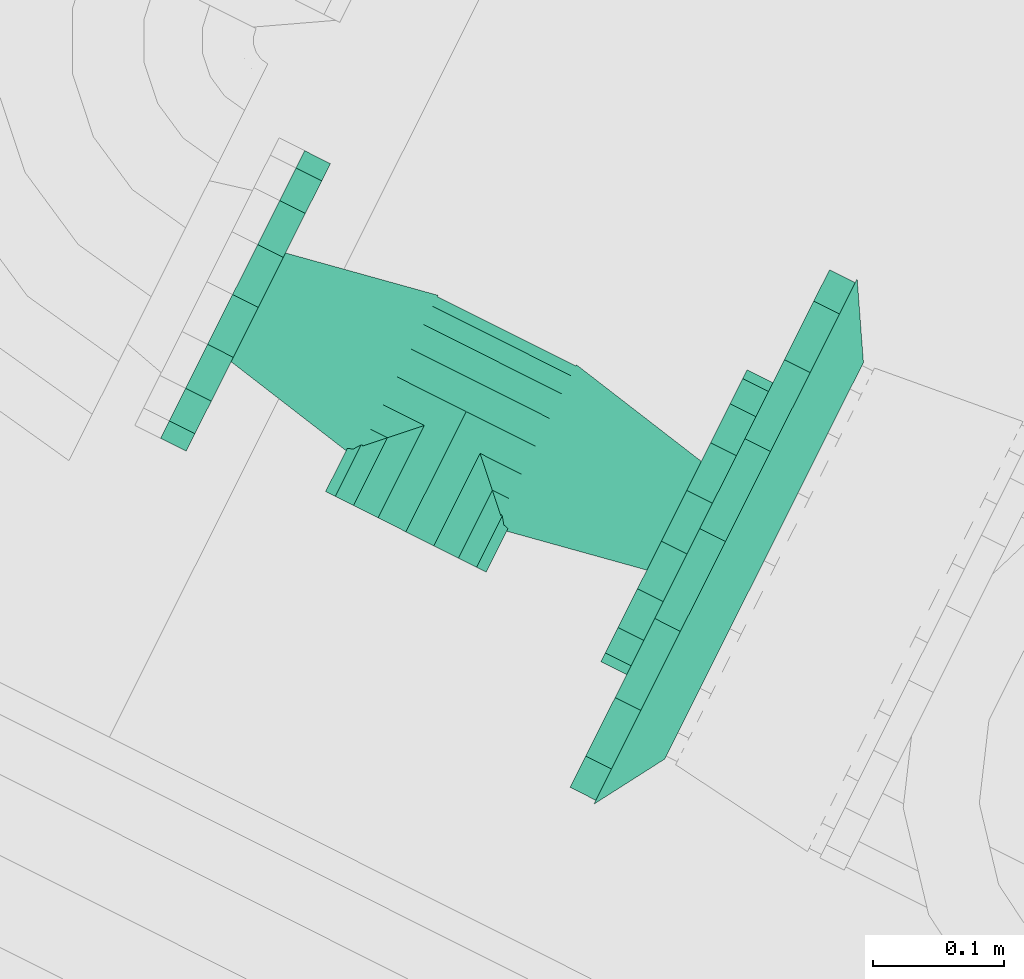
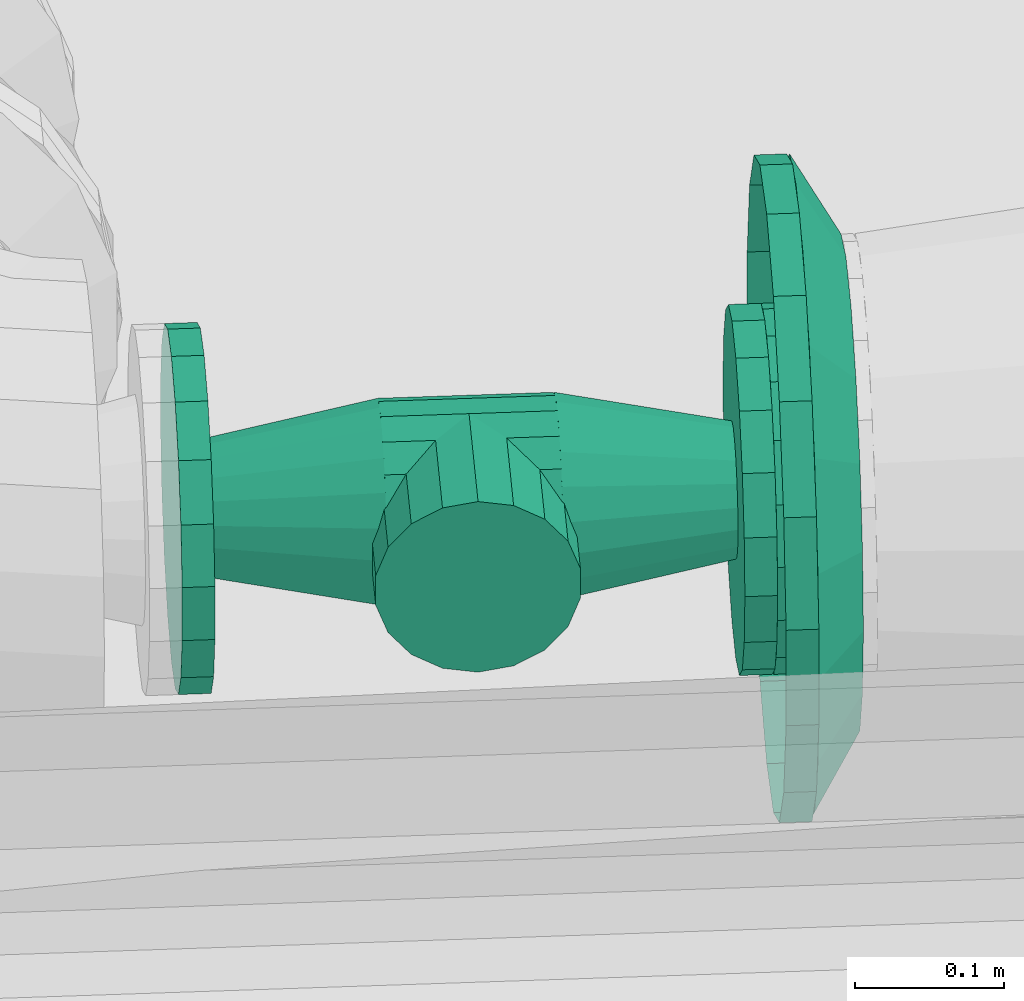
# One storey, part 48 of 206: 1 flow controller, 1 flow fitting.
"""IFC2X3 building model written with IfcOpenShell, lengths in metres."""

import ifcopenshell
import ifcopenshell.guid

model = None  # the IFC model being written
_history = None  # IfcOwnerHistory: only IFC2X3 demands one
_inside = {}  # id of a spatial element -> (the spatial element, [elements in it])
_under = {}  # id of a project, library or spatial element -> (it, [spatial elements below it])
_declared = {}  # id of a project -> (the project, [libraries it declares])
_typed = {}  # id of a type object -> (the type object, [elements of that type])
_made_of = {}  # id of a material, layer set ... -> (it, [elements and type objects made of it])


def new_model(schema):
    """Start an empty IFC model of exactly this schema.

    Asked for "IFC4X3", IfcOpenShell would pick the latest addendum, in which some entities
    have other attributes; the version numbers below select the first issue.
    IFC2X3 requires an IfcOwnerHistory on every rooted entity: one is made here for all.
    """
    global model, _history
    if schema == "IFC4X3":
        model = ifcopenshell.file(schema_version=(4, 3, 0, 0))
    else:
        model = ifcopenshell.file(schema=schema)
    _inside.clear()
    _under.clear()
    _declared.clear()
    _typed.clear()
    _made_of.clear()
    _history = None
    if model.schema == "IFC2X3":
        org = make("IfcOrganization", Name="unknown")
        user = make(
            "IfcPersonAndOrganization",
            ThePerson=make("IfcPerson", FamilyName="unknown"),
            TheOrganization=org,
        )
        app = make(
            "IfcApplication",
            ApplicationDeveloper=org,
            Version="unknown",
            ApplicationFullName="unknown",
            ApplicationIdentifier="unknown",
        )
        _history = make(
            "IfcOwnerHistory",
            OwningUser=user,
            OwningApplication=app,
            ChangeAction="ADDED",
            CreationDate=0,
        )
    return model


def make(cls, **values):
    """One entity of the class cls with the attributes given. An attribute that is None is left unset."""
    return model.create_entity(
        cls, **{name: value for name, value in values.items() if value is not None}
    )


def rooted(cls, **values):
    """An entity with a GlobalId (a new one), such as an element, a storey or a relation."""
    return make(cls, GlobalId=ifcopenshell.guid.new(), OwnerHistory=_history, **values)


def si_unit(unit_type, name, prefix=None):
    """IfcSIUnit, for example si_unit("LENGTHUNIT", "METRE", prefix="MILLI")."""
    return make("IfcSIUnit", UnitType=unit_type, Prefix=prefix, Name=name)


def derived_unit(unit_type, elements):
    """IfcDerivedUnit: a product of units, each with its exponent."""
    return make(
        "IfcDerivedUnit",
        Elements=[
            make("IfcDerivedUnitElement", Unit=unit, Exponent=power)
            for unit, power in elements
        ],
        UnitType=unit_type,
    )


def assignment(units):
    """IfcUnitAssignment: the units of a project."""
    return None if units is None else make("IfcUnitAssignment", Units=units)


def point(xyz):
    """IfcCartesianPoint."""
    return None if xyz is None else make("IfcCartesianPoint", Coordinates=xyz)


def direction(xyz):
    """IfcDirection."""
    return None if xyz is None else make("IfcDirection", DirectionRatios=xyz)


def frame(location, z_axis=None, x_axis=None):
    """IfcAxis2Placement3D, a coordinate frame: its origin and axes. An axis left out is left unset."""
    return make(
        "IfcAxis2Placement3D",
        Location=point(location),
        Axis=direction(z_axis),
        RefDirection=direction(x_axis),
    )


def origin():
    """The frame at (0, 0, 0) with its axes left unset."""
    return frame((0.0, 0.0, 0.0))


def place(relative_to, where):
    """IfcLocalPlacement: puts the frame where relative to a parent placement (None: the world)."""
    return make(
        "IfcLocalPlacement", PlacementRelTo=relative_to, RelativePlacement=where
    )


def context(
    kind, dimensions, precision=None, world=None, true_north=None, identifier=None
):
    """IfcGeometricRepresentationContext, for example the 3D "Model" context."""
    return make(
        "IfcGeometricRepresentationContext",
        ContextIdentifier=identifier,
        ContextType=kind,
        CoordinateSpaceDimension=dimensions,
        Precision=precision,
        WorldCoordinateSystem=world,
        TrueNorth=true_north,
    )


def subcontext(parent, identifier, kind, view, scale=None):
    """IfcGeometricRepresentationSubContext, for example "Body" below "Model"."""
    return make(
        "IfcGeometricRepresentationSubContext",
        ContextIdentifier=identifier,
        ContextType=kind,
        ParentContext=parent,
        TargetScale=scale,
        TargetView=view,
    )


def project(units=None, contexts=None):
    """IfcProject with its units and contexts."""
    return rooted(
        "IfcProject",
        Name="project",
        RepresentationContexts=contexts,
        UnitsInContext=assignment(units),
    )


def spatial(cls, under=None, at=None, **own):
    """A site, building, storey or space (cls), placed at a placement, below another one or the project."""
    s = rooted(cls, ObjectPlacement=at, **own)
    if under is not None:
        _under.setdefault(under.id(), (under, []))[1].append(s)
    return s


def faces_of(points, faces, orient=None, outer=None):
    """IfcFace entities. A face is a list of loops; a loop is a list of indices into points, from 0.

    orient and outer hold one flag for each loop. By default every Orientation is true, the
    first loop of a face is its IfcFaceOuterBound and the others are IfcFaceBound.
    """
    made = []
    for i, loops in enumerate(faces):
        bounds = []
        for j, loop in enumerate(loops):
            is_outer = j == 0 if outer is None else outer[i][j]
            bounds.append(
                make(
                    "IfcFaceOuterBound" if is_outer else "IfcFaceBound",
                    Bound=make("IfcPolyLoop", Polygon=[points[k] for k in loop]),
                    Orientation=True if orient is None else orient[i][j],
                )
            )
        made.append(make("IfcFace", Bounds=bounds))
    return made


def face_set(faces, orient=None, outer=None):
    """The faces of one IfcConnectedFaceSet. surface_model builds it on its shared points."""
    return ("IfcConnectedFaceSet", faces, orient, outer)


def surface_model(cls, points, shells):
    """IfcFaceBasedSurfaceModel or IfcShellBasedSurfaceModel (cls): surfaces that need not close."""
    shared = [point(p) for p in points]
    made = [make(c, CfsFaces=faces_of(shared, fs, o, b)) for c, fs, o, b in shells]
    if cls == "IfcFaceBasedSurfaceModel":
        return make(cls, FbsmFaces=made)
    return make(cls, SbsmBoundary=made)


def shape(context_of_items, identifier, shape_type, items):
    """IfcShapeRepresentation: the items that make up one representation, for example the "Body"."""
    return make(
        "IfcShapeRepresentation",
        ContextOfItems=context_of_items,
        RepresentationIdentifier=identifier,
        RepresentationType=shape_type,
        Items=items,
    )


def source(mapping_origin, context_of_items, identifier, shape_type, items):
    """IfcRepresentationMap: a shape defined once, which mapped items show again and again."""
    return make(
        "IfcRepresentationMap",
        MappingOrigin=mapping_origin,
        MappedRepresentation=shape(context_of_items, identifier, shape_type, items),
    )


def transform(
    local_origin,
    x_axis=None,
    y_axis=None,
    z_axis=None,
    scale=None,
    scale2=None,
    scale3=None,
    uniform=True,
):
    """IfcCartesianTransformationOperator3D, or its non-uniform kind. x_axis, y_axis, z_axis: its Axis1, 2, 3."""
    if uniform:
        return make(
            "IfcCartesianTransformationOperator3D",
            Axis1=direction(x_axis),
            Axis2=direction(y_axis),
            LocalOrigin=point(local_origin),
            Scale=scale,
            Axis3=direction(z_axis),
        )
    return make(
        "IfcCartesianTransformationOperator3DnonUniform",
        Axis1=direction(x_axis),
        Axis2=direction(y_axis),
        LocalOrigin=point(local_origin),
        Scale=scale,
        Axis3=direction(z_axis),
        Scale2=scale2,
        Scale3=scale3,
    )


def mapped(mapping_source, mapping_target):
    """IfcMappedItem: shows the shape of a source again, moved by a transform."""
    return make(
        "IfcMappedItem", MappingSource=mapping_source, MappingTarget=mapping_target
    )


def material(Name=None, Category=None):
    """IfcMaterial."""
    return make("IfcMaterial", Name=Name, Category=Category)


def made_of(thing, what):
    """Note that an element or type object is made of a material, layer set ...; save() writes the relation."""
    if what is not None:
        _made_of.setdefault(what.id(), (what, []))[1].append(thing)
    return thing


def type_object(cls, material=None, **own):
    """A type object (cls), such as IfcWallType, which elements share."""
    return made_of(rooted(cls, **own), material)


def type_shapes(of_type, sources):
    """Give a type object the sources (RepresentationMaps) that its elements show as mapped items."""
    of_type.RepresentationMaps = sources


def element(
    cls,
    number,
    at=None,
    inside=None,
    cuts=None,
    type_object=None,
    material=None,
    context=None,
    identifier="Body",
    shape_type=None,
    held_by="IfcProductDefinitionShape",
    body=None,
    shapes=None,
    **own,
):
    """One element of the class cls, such as IfcWall. Its Tag is "e" and its number.

    at: its placement. inside: the storey or other place that contains it. cuts: it is an
    opening in that element (IfcRelVoidsElement). A single representation is given by context,
    identifier, shape_type and body (its items); several are given by shapes. held_by: the class
    of the entity that holds the representations. save() writes the other relations.
    """
    e = rooted(cls, Tag="e%d" % number, ObjectPlacement=at, **own)
    if body is not None:
        shapes = [shape(context, identifier, shape_type, body)]
    if shapes is not None:
        e.Representation = make(held_by, Representations=shapes)
    if inside is not None:
        _inside.setdefault(inside.id(), (inside, []))[1].append(e)
    if cuts is not None:
        rooted(
            "IfcRelVoidsElement", RelatingBuildingElement=cuts, RelatedOpeningElement=e
        )
    if type_object is not None:
        _typed.setdefault(type_object.id(), (type_object, []))[1].append(e)
    return made_of(e, material)


def aggregate(whole, parts):
    """IfcRelAggregates: a whole, such as a stair, and the parts it consists of."""
    return rooted("IfcRelAggregates", RelatingObject=whole, RelatedObjects=parts)


def save(model, path):
    """Write the relations noted so far, then the file.

    IfcRelAggregates (storeys below a building ...), IfcRelContainedInSpatialStructure (elements
    in a storey), IfcRelDefinesByType, IfcRelAssociatesMaterial and IfcRelDeclares: one each for
    every whole, place, type object, material and project.
    """
    for whole, parts in _under.values():
        aggregate(whole, parts)
    for where, things in _inside.values():
        rooted(
            "IfcRelContainedInSpatialStructure",
            RelatedElements=things,
            RelatingStructure=where,
        )
    for kind, things in _typed.values():
        rooted("IfcRelDefinesByType", RelatedObjects=things, RelatingType=kind)
    for what, things in _made_of.values():
        rooted("IfcRelAssociatesMaterial", RelatedObjects=things, RelatingMaterial=what)
    for by, libraries in _declared.values():
        rooted("IfcRelDeclares", RelatingContext=by, RelatedDefinitions=libraries)
    model.write(path)


model = new_model("IFC2X3")

# Units and contexts
model_context = context("Model", 3, precision=5.2338327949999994e-05, world=origin(), true_north=direction((0.0, 1.0)))
body_context = subcontext(model_context, "Body", "Model", "MODEL_VIEW")
ifc_project = project(units=[si_unit("LENGTHUNIT", "METRE"), si_unit("AREAUNIT", "SQUARE_METRE"), si_unit("VOLUMEUNIT", "CUBIC_METRE"), si_unit("MASSUNIT", "GRAM", prefix="KILO"), si_unit("PLANEANGLEUNIT", "RADIAN"), derived_unit("THERMALTRANSMITTANCEUNIT", [(si_unit("MASSUNIT", "GRAM", prefix="KILO"), 1), (si_unit("THERMODYNAMICTEMPERATUREUNIT", "KELVIN"), -1), (si_unit("TIMEUNIT", "SECOND"), -3)])], contexts=[model_context])

# Site, building, storey
site_placement = place(None, frame((0.0, 0.0, 0.0), z_axis=(0.0, 0.0, 1.0), x_axis=(0.8939966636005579, -0.4480736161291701, 0.0)))
site = spatial("IfcSite", under=ifc_project, at=site_placement, Name="Default", CompositionType="ELEMENT")
building_placement = place(site_placement, origin())
building = spatial("IfcBuilding", under=site, at=building_placement, CompositionType="ELEMENT")
storey_placement = place(building_placement, origin())
storey = spatial("IfcBuildingStorey", under=building, at=storey_placement, Name="Erdgeschoss", CompositionType="ELEMENT", Elevation=0.0)

# Flow controller
ifc_material = material(Name="IfcSurfaceStyle #1741")
distribution_element_type_1 = type_object("IfcDistributionElementType", Name="Rückschlagklappe 318782:Rückschlagklappe 318782", material=ifc_material)
shared_shape_1 = source(origin(), body_context, "Body", "SurfaceModel", [
    surface_model("IfcFaceBasedSurfaceModel", [(23.329853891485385, 5.395961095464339, 2.479), (23.329853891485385, 5.353208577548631, 2.471461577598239), (23.351853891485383, 5.353208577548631, 2.471461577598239), (23.351853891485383, 5.395961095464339, 2.479), (23.329853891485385, 5.315612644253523, 2.449755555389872), (23.351853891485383, 5.315612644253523, 2.449755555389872), (23.329853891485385, 5.287707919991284, 2.4165000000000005), (23.351853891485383, 5.287707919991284, 2.4165000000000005), (23.329853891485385, 5.272860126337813, 2.3757060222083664), (23.351853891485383, 5.272860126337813, 2.3757060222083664), (23.329853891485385, 5.272860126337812, 2.3322939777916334), (23.351853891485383, 5.272860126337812, 2.3322939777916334), (23.329853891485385, 5.287707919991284, 2.2915000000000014), (23.351853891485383, 5.287707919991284, 2.2915000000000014), (23.329853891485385, 5.315612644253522, 2.2582444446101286), (23.351853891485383, 5.315612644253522, 2.2582444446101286), (23.329853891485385, 5.35320857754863, 2.236538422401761), (23.351853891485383, 5.35320857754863, 2.236538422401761), (23.329853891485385, 5.3959610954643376, 2.2290000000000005), (23.351853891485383, 5.3959610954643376, 2.2290000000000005), (23.329853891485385, 5.438713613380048, 2.236538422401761), (23.351853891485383, 5.438713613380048, 2.236538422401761), (23.329853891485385, 5.476309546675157, 2.2582444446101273), (23.351853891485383, 5.476309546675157, 2.2582444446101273), (23.329853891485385, 5.504214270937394, 2.2915), (23.351853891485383, 5.504214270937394, 2.2915), (23.329853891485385, 5.519062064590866, 2.332293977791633), (23.351853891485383, 5.519062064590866, 2.332293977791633), (23.329853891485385, 5.519062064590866, 2.3757060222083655), (23.351853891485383, 5.519062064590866, 2.3757060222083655), (23.329853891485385, 5.5042142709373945, 2.4165), (23.351853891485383, 5.5042142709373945, 2.4165), (23.329853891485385, 5.476309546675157, 2.44975555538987), (23.351853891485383, 5.476309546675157, 2.44975555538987), (23.329853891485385, 5.4387136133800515, 2.471461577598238), (23.351853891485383, 5.4387136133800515, 2.471461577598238), (23.329853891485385, 5.395961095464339, 2.354), (23.351853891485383, 5.395961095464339, 2.354), (23.351853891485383, 5.4425277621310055, 2.354), (23.351853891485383, 5.439719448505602, 2.36992673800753), (23.470520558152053, 5.461598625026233, 2.3778901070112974), (23.470520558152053, 5.465811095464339, 2.353999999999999), (23.351853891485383, 5.431633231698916, 2.3839324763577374), (23.470520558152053, 5.449469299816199, 2.3988987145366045), (23.351853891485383, 5.419244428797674, 2.3943279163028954), (23.470520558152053, 5.43088609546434, 2.4144918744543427), (23.351853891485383, 5.40404731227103, 2.3998592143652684), (23.470520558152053, 5.408090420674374, 2.4227888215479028), (23.351853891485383, 5.387874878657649, 2.3998592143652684), (23.470520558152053, 5.383831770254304, 2.4227888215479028), (23.351853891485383, 5.372677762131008, 2.3943279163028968), (23.470520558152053, 5.361036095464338, 2.414491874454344), (23.351853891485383, 5.360288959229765, 2.383932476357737), (23.470520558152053, 5.342452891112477, 2.3988987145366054), (23.351853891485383, 5.352202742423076, 2.3699267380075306), (23.470520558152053, 5.330323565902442, 2.3778901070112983), (23.351853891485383, 5.349394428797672, 2.3540000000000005), (23.470520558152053, 5.326111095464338, 2.3540000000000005), (23.351853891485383, 5.352202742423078, 2.338073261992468), (23.470520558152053, 5.33032356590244, 2.3301098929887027), (23.351853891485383, 5.360288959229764, 2.3240675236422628), (23.470520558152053, 5.342452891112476, 2.3091012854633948), (23.351853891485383, 5.372677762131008, 2.3136720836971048), (23.470520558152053, 5.361036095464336, 2.293508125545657), (23.351853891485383, 5.387874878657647, 2.3081407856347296), (23.470520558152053, 5.383831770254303, 2.285211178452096), (23.351853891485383, 5.40404731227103, 2.308140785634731), (23.470520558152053, 5.408090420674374, 2.2852111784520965), (23.351853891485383, 5.419244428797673, 2.313672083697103), (23.470520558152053, 5.430886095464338, 2.2935081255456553), (23.351853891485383, 5.431633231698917, 2.324067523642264), (23.470520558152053, 5.449469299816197, 2.3091012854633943), (23.351853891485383, 5.439719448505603, 2.3380732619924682), (23.470520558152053, 5.461598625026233, 2.330109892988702), (23.47052055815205, 5.395961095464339, 2.4238499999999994), (23.47052055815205, 5.372070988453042, 2.4196375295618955), (23.589187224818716, 5.372070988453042, 2.4196375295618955), (23.589187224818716, 5.395961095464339, 2.4238499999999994), (23.47052055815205, 5.3510623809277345, 2.4075082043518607), (23.589187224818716, 5.3510623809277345, 2.4075082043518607), (23.47052055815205, 5.335469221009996, 2.3889250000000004), (23.589187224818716, 5.335469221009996, 2.3889250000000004), (23.47052055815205, 5.327172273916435, 2.366129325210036), (23.589187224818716, 5.327172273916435, 2.366129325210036), (23.47052055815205, 5.327172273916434, 2.3418706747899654), (23.589187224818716, 5.327172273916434, 2.3418706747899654), (23.47052055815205, 5.335469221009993, 2.319075), (23.589187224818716, 5.335469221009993, 2.319075), (23.47052055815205, 5.3510623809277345, 2.3004917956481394), (23.589187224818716, 5.3510623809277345, 2.3004917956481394), (23.47052055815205, 5.372070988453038, 2.2883624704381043), (23.589187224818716, 5.372070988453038, 2.2883624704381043), (23.47052055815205, 5.395961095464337, 2.2841500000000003), (23.589187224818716, 5.395961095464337, 2.2841500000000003), (23.47052055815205, 5.419851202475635, 2.2883624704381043), (23.589187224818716, 5.419851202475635, 2.2883624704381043), (23.47052055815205, 5.4408598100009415, 2.300491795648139), (23.589187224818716, 5.4408598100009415, 2.300491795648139), (23.47052055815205, 5.456452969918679, 2.319074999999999), (23.589187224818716, 5.456452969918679, 2.319074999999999), (23.47052055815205, 5.46474991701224, 2.341870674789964), (23.589187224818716, 5.46474991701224, 2.341870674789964), (23.47052055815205, 5.464749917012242, 2.366129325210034), (23.589187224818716, 5.464749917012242, 2.366129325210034), (23.47052055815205, 5.456452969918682, 2.388924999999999), (23.589187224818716, 5.456452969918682, 2.388924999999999), (23.47052055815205, 5.4408598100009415, 2.4075082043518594), (23.589187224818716, 5.4408598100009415, 2.4075082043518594), (23.47052055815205, 5.419851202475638, 2.419637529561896), (23.589187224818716, 5.419851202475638, 2.419637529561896), (23.589187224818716, 5.465811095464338, 2.353999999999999), (23.589187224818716, 5.461598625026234, 2.3778901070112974), (23.707853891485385, 5.439719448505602, 2.369926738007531), (23.707853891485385, 5.442527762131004, 2.3539999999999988), (23.589187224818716, 5.449469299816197, 2.398898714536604), (23.707853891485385, 5.431633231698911, 2.383932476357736), (23.589187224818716, 5.430886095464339, 2.4144918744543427), (23.707853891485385, 5.41924442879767, 2.3943279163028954), (23.589187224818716, 5.408090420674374, 2.422788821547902), (23.707853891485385, 5.404047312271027, 2.3998592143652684), (23.589187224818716, 5.383831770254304, 2.4227888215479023), (23.707853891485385, 5.387874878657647, 2.3998592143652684), (23.589187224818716, 5.361036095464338, 2.414491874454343), (23.707853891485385, 5.372677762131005, 2.3943279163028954), (23.589187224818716, 5.342452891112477, 2.3988987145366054), (23.707853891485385, 5.360288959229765, 2.383932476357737), (23.589187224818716, 5.330323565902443, 2.3778901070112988), (23.707853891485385, 5.352202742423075, 2.369926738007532), (23.589187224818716, 5.326111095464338, 2.354), (23.707853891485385, 5.349394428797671, 2.3539999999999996), (23.589187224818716, 5.33032356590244, 2.3301098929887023), (23.707853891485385, 5.352202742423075, 2.3380732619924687), (23.589187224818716, 5.342452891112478, 2.309101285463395), (23.707853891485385, 5.360288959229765, 2.324067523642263), (23.589187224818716, 5.361036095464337, 2.293508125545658), (23.707853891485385, 5.372677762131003, 2.3136720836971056), (23.589187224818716, 5.383831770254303, 2.285211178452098), (23.707853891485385, 5.387874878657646, 2.3081407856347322), (23.589187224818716, 5.408090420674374, 2.285211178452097), (23.707853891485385, 5.404047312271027, 2.3081407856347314), (23.589187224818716, 5.430886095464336, 2.2935081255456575), (23.707853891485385, 5.41924442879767, 2.313672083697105), (23.589187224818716, 5.449469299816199, 2.309101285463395), (23.707853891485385, 5.431633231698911, 2.324067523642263), (23.589187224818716, 5.46159862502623, 2.330109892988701), (23.707853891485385, 5.439719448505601, 2.338073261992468), (23.529853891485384, 5.395961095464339, 2.42385), (23.505963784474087, 5.395961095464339, 2.419637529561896), (23.505963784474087, 5.292961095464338, 2.419637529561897), (23.529853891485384, 5.292961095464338, 2.4238500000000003), (23.48495517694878, 5.3959610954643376, 2.4075082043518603), (23.48495517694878, 5.292961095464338, 2.407508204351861), (23.46936201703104, 5.39596109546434, 2.388925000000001), (23.46936201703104, 5.292961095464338, 2.3889250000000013), (23.46106506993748, 5.3959610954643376, 2.366129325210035), (23.46106506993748, 5.292961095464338, 2.366129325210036), (23.46106506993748, 5.3959610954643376, 2.3418706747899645), (23.46106506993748, 5.292961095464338, 2.341870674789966), (23.46936201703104, 5.395961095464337, 2.3190749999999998), (23.46936201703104, 5.292961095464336, 2.3190750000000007), (23.48495517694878, 5.395961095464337, 2.300491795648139), (23.48495517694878, 5.292961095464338, 2.3004917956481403), (23.505963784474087, 5.395961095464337, 2.2883624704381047), (23.505963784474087, 5.292961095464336, 2.288362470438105), (23.529853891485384, 5.395961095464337, 2.2841500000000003), (23.529853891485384, 5.292961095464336, 2.284150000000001), (23.553743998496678, 5.395961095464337, 2.2883624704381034), (23.553743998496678, 5.292961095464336, 2.2883624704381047), (23.574752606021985, 5.395961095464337, 2.300491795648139), (23.574752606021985, 5.292961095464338, 2.3004917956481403), (23.590345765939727, 5.395961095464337, 2.3190749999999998), (23.590345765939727, 5.292961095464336, 2.3190750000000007), (23.598642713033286, 5.395961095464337, 2.3418706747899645), (23.598642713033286, 5.292961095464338, 2.341870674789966), (23.598642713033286, 5.3959610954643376, 2.366129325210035), (23.598642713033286, 5.292961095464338, 2.366129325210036), (23.590345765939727, 5.39596109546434, 2.388925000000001), (23.590345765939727, 5.292961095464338, 2.3889250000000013), (23.574752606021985, 5.3959610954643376, 2.4075082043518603), (23.574752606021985, 5.292961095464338, 2.4075082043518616), (23.553743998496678, 5.39596109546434, 2.419637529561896), (23.553743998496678, 5.292961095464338, 2.419637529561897), (23.529853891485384, 5.292961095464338, 2.354000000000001), (23.707853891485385, 5.270961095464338, 2.354000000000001), (23.707853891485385, 5.278499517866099, 2.3112474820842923), (23.72985389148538, 5.278499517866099, 2.3112474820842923), (23.72985389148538, 5.270961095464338, 2.354000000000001), (23.707853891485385, 5.300205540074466, 2.273651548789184), (23.72985389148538, 5.300205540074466, 2.273651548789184), (23.707853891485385, 5.333461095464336, 2.2457468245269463), (23.72985389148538, 5.333461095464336, 2.2457468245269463), (23.707853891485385, 5.374255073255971, 2.230899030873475), (23.72985389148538, 5.374255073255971, 2.230899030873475), (23.707853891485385, 5.417667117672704, 2.230899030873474), (23.72985389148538, 5.417667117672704, 2.230899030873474), (23.707853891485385, 5.458461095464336, 2.245746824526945), (23.72985389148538, 5.458461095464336, 2.245746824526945), (23.707853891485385, 5.49171665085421, 2.2736515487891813), (23.72985389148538, 5.49171665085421, 2.2736515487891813), (23.707853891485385, 5.513422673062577, 2.311247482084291), (23.72985389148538, 5.513422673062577, 2.311247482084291), (23.707853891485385, 5.5209610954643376, 2.3539999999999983), (23.72985389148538, 5.5209610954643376, 2.3539999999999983), (23.707853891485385, 5.513422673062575, 2.396752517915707), (23.72985389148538, 5.513422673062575, 2.396752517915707), (23.707853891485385, 5.49171665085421, 2.4343484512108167), (23.72985389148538, 5.49171665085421, 2.4343484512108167), (23.707853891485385, 5.45846109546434, 2.462253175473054), (23.72985389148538, 5.45846109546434, 2.462253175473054), (23.707853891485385, 5.417667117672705, 2.4771009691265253), (23.72985389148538, 5.417667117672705, 2.4771009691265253), (23.707853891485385, 5.3742550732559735, 2.477100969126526), (23.72985389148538, 5.3742550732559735, 2.477100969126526), (23.707853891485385, 5.33346109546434, 2.4622531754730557), (23.72985389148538, 5.33346109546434, 2.4622531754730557), (23.707853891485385, 5.300205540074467, 2.4343484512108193), (23.72985389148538, 5.300205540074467, 2.4343484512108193), (23.707853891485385, 5.278499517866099, 2.39675251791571), (23.72985389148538, 5.278499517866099, 2.39675251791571), (23.707853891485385, 5.3959610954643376, 2.354), (23.72985389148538, 5.3959610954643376, 2.354)], [face_set([[[0, 1, 2, 3]], [[1, 4, 5, 2]], [[4, 6, 7, 5]], [[6, 8, 9, 7]], [[8, 10, 11, 9]], [[10, 12, 13, 11]], [[12, 14, 15, 13]], [[14, 16, 17, 15]], [[16, 18, 19, 17]], [[18, 20, 21, 19]], [[20, 22, 23, 21]], [[22, 24, 25, 23]], [[24, 26, 27, 25]], [[26, 28, 29, 27]], [[28, 30, 31, 29]], [[30, 32, 33, 31]], [[32, 34, 35, 33]], [[34, 0, 3, 35]], [[36, 1, 0]], [[36, 4, 1]], [[36, 6, 4]], [[36, 8, 6]], [[36, 10, 8]], [[36, 12, 10]], [[36, 14, 12]], [[36, 16, 14]], [[36, 18, 16]], [[36, 20, 18]], [[36, 22, 20]], [[36, 24, 22]], [[36, 26, 24]], [[36, 28, 26]], [[36, 30, 28]], [[36, 32, 30]], [[36, 34, 32]], [[36, 0, 34]], [[37, 35, 3]], [[37, 33, 35]], [[37, 31, 33]], [[37, 29, 31]], [[37, 27, 29]], [[37, 25, 27]], [[37, 23, 25]], [[37, 21, 23]], [[37, 19, 21]], [[37, 17, 19]], [[37, 15, 17]], [[37, 13, 15]], [[37, 11, 13]], [[37, 9, 11]], [[37, 7, 9]], [[37, 5, 7]], [[37, 2, 5]], [[37, 3, 2]], [[38, 39, 40, 41]], [[39, 42, 43, 40]], [[42, 44, 45, 43]], [[44, 46, 47, 45]], [[46, 48, 49, 47]], [[48, 50, 51, 49]], [[50, 52, 53, 51]], [[52, 54, 55, 53]], [[54, 56, 57, 55]], [[56, 58, 59, 57]], [[58, 60, 61, 59]], [[60, 62, 63, 61]], [[62, 64, 65, 63]], [[64, 66, 67, 65]], [[66, 68, 69, 67]], [[68, 70, 71, 69]], [[70, 72, 73, 71]], [[72, 38, 41, 73]], [[74, 75, 76, 77]], [[75, 78, 79, 76]], [[78, 80, 81, 79]], [[80, 82, 83, 81]], [[82, 84, 85, 83]], [[84, 86, 87, 85]], [[86, 88, 89, 87]], [[88, 90, 91, 89]], [[90, 92, 93, 91]], [[92, 94, 95, 93]], [[94, 96, 97, 95]], [[96, 98, 99, 97]], [[98, 100, 101, 99]], [[100, 102, 103, 101]], [[102, 104, 105, 103]], [[104, 106, 107, 105]], [[106, 108, 109, 107]], [[108, 74, 77, 109]], [[110, 111, 112, 113]], [[111, 114, 115, 112]], [[114, 116, 117, 115]], [[116, 118, 119, 117]], [[118, 120, 121, 119]], [[120, 122, 123, 121]], [[122, 124, 125, 123]], [[124, 126, 127, 125]], [[126, 128, 129, 127]], [[128, 130, 131, 129]], [[130, 132, 133, 131]], [[132, 134, 135, 133]], [[134, 136, 137, 135]], [[136, 138, 139, 137]], [[138, 140, 141, 139]], [[140, 142, 143, 141]], [[142, 144, 145, 143]], [[144, 110, 113, 145]], [[146, 147, 148, 149]], [[147, 150, 151, 148]], [[150, 152, 153, 151]], [[152, 154, 155, 153]], [[154, 156, 157, 155]], [[156, 158, 159, 157]], [[158, 160, 161, 159]], [[160, 162, 163, 161]], [[162, 164, 165, 163]], [[164, 166, 167, 165]], [[166, 168, 169, 167]], [[168, 170, 171, 169]], [[170, 172, 173, 171]], [[172, 174, 175, 173]], [[174, 176, 177, 175]], [[176, 178, 179, 177]], [[178, 180, 181, 179]], [[180, 146, 149, 181]], [[182, 181, 149]], [[182, 179, 181]], [[182, 177, 179]], [[182, 175, 177]], [[182, 173, 175]], [[182, 171, 173]], [[182, 169, 171]], [[182, 167, 169]], [[182, 165, 167]], [[182, 163, 165]], [[182, 161, 163]], [[182, 159, 161]], [[182, 157, 159]], [[182, 155, 157]], [[182, 153, 155]], [[182, 151, 153]], [[182, 148, 151]], [[182, 149, 148]], [[183, 184, 185, 186]], [[184, 187, 188, 185]], [[187, 189, 190, 188]], [[189, 191, 192, 190]], [[191, 193, 194, 192]], [[193, 195, 196, 194]], [[195, 197, 198, 196]], [[197, 199, 200, 198]], [[199, 201, 202, 200]], [[201, 203, 204, 202]], [[203, 205, 206, 204]], [[205, 207, 208, 206]], [[207, 209, 210, 208]], [[209, 211, 212, 210]], [[211, 213, 214, 212]], [[213, 215, 216, 214]], [[215, 217, 218, 216]], [[217, 183, 186, 218]], [[219, 184, 183]], [[219, 187, 184]], [[219, 189, 187]], [[219, 191, 189]], [[219, 193, 191]], [[219, 195, 193]], [[219, 197, 195]], [[219, 199, 197]], [[219, 201, 199]], [[219, 203, 201]], [[219, 205, 203]], [[219, 207, 205]], [[219, 209, 207]], [[219, 211, 209]], [[219, 213, 211]], [[219, 215, 213]], [[219, 217, 215]], [[219, 183, 217]], [[220, 218, 186]], [[220, 216, 218]], [[220, 214, 216]], [[220, 212, 214]], [[220, 210, 212]], [[220, 208, 210]], [[220, 206, 208]], [[220, 204, 206]], [[220, 202, 204]], [[220, 200, 202]], [[220, 198, 200]], [[220, 196, 198]], [[220, 194, 196]], [[220, 192, 194]], [[220, 190, 192]], [[220, 188, 190]], [[220, 185, 188]], [[220, 186, 185]]])]),
])
type_shapes(distribution_element_type_1, [shared_shape_1])
flow_controller_placement = place(storey_placement, origin())
element("IfcFlowController", 1, at=flow_controller_placement, inside=storey, type_object=distribution_element_type_1, material=ifc_material, Name="Rückschlagklappe", ObjectType="Rückschlagklappe", context=body_context, shape_type="MappedRepresentation", body=[
    mapped(shared_shape_1, transform((0.0, 0.0, 0.0), scale=1.0)),
])

# Flow fitting
distribution_element_type_2 = type_object("IfcDistributionElementType", Name="Flansch 318851:Flansch 318851", material=ifc_material)
shared_shape_2 = source(origin(), body_context, "Body", "SurfaceModel", [
    surface_model("IfcFaceBasedSurfaceModel", [(23.729853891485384, 5.395961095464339, 2.479), (23.729853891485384, 5.353208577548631, 2.471461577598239), (23.751853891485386, 5.353208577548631, 2.471461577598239), (23.751853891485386, 5.395961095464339, 2.479), (23.729853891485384, 5.315612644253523, 2.449755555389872), (23.751853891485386, 5.315612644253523, 2.449755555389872), (23.729853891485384, 5.287707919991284, 2.4165000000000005), (23.751853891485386, 5.287707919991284, 2.4165000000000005), (23.729853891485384, 5.272860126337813, 2.3757060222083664), (23.751853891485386, 5.272860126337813, 2.3757060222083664), (23.729853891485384, 5.272860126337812, 2.3322939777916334), (23.751853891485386, 5.272860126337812, 2.3322939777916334), (23.729853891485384, 5.287707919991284, 2.2915000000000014), (23.751853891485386, 5.287707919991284, 2.2915000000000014), (23.729853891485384, 5.315612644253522, 2.2582444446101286), (23.751853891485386, 5.315612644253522, 2.2582444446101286), (23.729853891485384, 5.35320857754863, 2.236538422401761), (23.751853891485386, 5.35320857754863, 2.236538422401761), (23.729853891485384, 5.3959610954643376, 2.2290000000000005), (23.751853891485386, 5.3959610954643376, 2.2290000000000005), (23.729853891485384, 5.438713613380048, 2.236538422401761), (23.751853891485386, 5.438713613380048, 2.236538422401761), (23.729853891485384, 5.476309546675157, 2.2582444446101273), (23.751853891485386, 5.476309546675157, 2.2582444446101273), (23.729853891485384, 5.504214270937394, 2.2915), (23.751853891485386, 5.504214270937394, 2.2915), (23.729853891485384, 5.519062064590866, 2.332293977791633), (23.751853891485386, 5.519062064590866, 2.332293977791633), (23.729853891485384, 5.519062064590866, 2.3757060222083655), (23.751853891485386, 5.519062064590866, 2.3757060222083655), (23.729853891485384, 5.5042142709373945, 2.4165), (23.751853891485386, 5.5042142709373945, 2.4165), (23.729853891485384, 5.476309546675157, 2.44975555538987), (23.751853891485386, 5.476309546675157, 2.44975555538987), (23.729853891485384, 5.4387136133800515, 2.471461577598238), (23.751853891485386, 5.4387136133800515, 2.471461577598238), (23.75185389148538, 5.395961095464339, 2.354), (23.751853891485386, 5.317961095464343, 2.353999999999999), (23.751853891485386, 5.322665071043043, 2.327322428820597), (23.784853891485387, 5.330323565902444, 2.330109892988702), (23.784853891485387, 5.326111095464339, 2.3539999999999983), (23.751853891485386, 5.336209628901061, 2.303862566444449), (23.784853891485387, 5.34245289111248, 2.3091012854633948), (23.751853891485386, 5.356961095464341, 2.286450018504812), (23.784853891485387, 5.361036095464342, 2.2935081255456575), (23.751853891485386, 5.382416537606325, 2.277184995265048), (23.784853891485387, 5.383831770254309, 2.2852111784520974), (23.751853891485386, 5.409505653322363, 2.277184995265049), (23.784853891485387, 5.408090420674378, 2.2852111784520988), (23.751853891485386, 5.4349610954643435, 2.286450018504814), (23.784853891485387, 5.430886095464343, 2.293508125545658), (23.751853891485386, 5.455712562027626, 2.303862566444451), (23.784853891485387, 5.449469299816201, 2.3091012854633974), (23.751853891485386, 5.469257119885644, 2.3273224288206), (23.784853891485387, 5.4615986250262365, 2.3301098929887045), (23.751853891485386, 5.473961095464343, 2.354000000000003), (23.784853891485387, 5.465811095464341, 2.354000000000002), (23.751853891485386, 5.469257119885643, 2.380677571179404), (23.784853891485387, 5.4615986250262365, 2.3778901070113), (23.751853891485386, 5.455712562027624, 2.4041374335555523), (23.784853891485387, 5.449469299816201, 2.398898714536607), (23.751853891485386, 5.434961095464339, 2.421549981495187), (23.784853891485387, 5.43088609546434, 2.4144918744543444), (23.751853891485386, 5.409505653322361, 2.4308150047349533), (23.784853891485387, 5.408090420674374, 2.422788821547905), (23.751853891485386, 5.382416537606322, 2.430815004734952), (23.784853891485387, 5.383831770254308, 2.4227888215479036), (23.751853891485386, 5.35696109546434, 2.4215499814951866), (23.784853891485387, 5.361036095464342, 2.414491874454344), (23.751853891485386, 5.33620962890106, 2.4041374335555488), (23.784853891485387, 5.342452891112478, 2.3988987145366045), (23.751853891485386, 5.32266507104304, 2.3806775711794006), (23.784853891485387, 5.330323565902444, 2.377890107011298), (23.729853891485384, 5.39596109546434, 2.579), (23.729853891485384, 5.319006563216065, 2.5654308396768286), (23.751853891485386, 5.319006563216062, 2.565430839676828), (23.751853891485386, 5.3959610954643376, 2.5789999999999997), (23.729853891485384, 5.251333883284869, 2.5263599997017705), (23.751853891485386, 5.251333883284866, 2.5263599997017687), (23.729853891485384, 5.201105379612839, 2.4665000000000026), (23.751853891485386, 5.201105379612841, 2.466499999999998), (23.729853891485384, 5.174379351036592, 2.393070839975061), (23.751853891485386, 5.1743793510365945, 2.393070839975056), (23.729853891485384, 5.174379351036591, 2.314929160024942), (23.751853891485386, 5.1743793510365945, 2.314929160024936), (23.729853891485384, 5.201105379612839, 2.2415), (23.751853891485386, 5.201105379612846, 2.2414999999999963), (23.729853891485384, 5.251333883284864, 2.1816400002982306), (23.751853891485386, 5.251333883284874, 2.181640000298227), (23.729853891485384, 5.319006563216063, 2.1425691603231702), (23.751853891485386, 5.319006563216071, 2.14256916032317), (23.729853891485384, 5.395961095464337, 2.128999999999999), (23.751853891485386, 5.395961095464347, 2.1290000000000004), (23.729853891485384, 5.472915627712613, 2.1425691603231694), (23.751853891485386, 5.472915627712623, 2.1425691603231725), (23.729853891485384, 5.540588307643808, 2.1816400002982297), (23.751853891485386, 5.5405883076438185, 2.1816400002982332), (23.729853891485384, 5.590816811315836, 2.2414999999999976), (23.751853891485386, 5.590816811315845, 2.241500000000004), (23.729853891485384, 5.617542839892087, 2.3149291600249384), (23.751853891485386, 5.617542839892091, 2.3149291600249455), (23.729853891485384, 5.617542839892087, 2.3930708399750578), (23.751853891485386, 5.61754283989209, 2.3930708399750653), (23.729853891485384, 5.590816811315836, 2.466499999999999), (23.751853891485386, 5.59081681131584, 2.4665000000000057), (23.729853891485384, 5.540588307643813, 2.5263599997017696), (23.751853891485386, 5.540588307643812, 2.5263599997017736), (23.729853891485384, 5.472915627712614, 2.5654308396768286), (23.751853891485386, 5.472915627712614, 2.5654308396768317), (23.751853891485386, 5.170961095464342, 2.353999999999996), (23.751853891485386, 5.184530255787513, 2.2770454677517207), (23.784853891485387, 5.2363543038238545, 2.2959078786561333), (23.784853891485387, 5.226111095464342, 2.353999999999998), (23.751853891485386, 5.223601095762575, 2.209372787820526), (23.784853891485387, 5.265848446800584, 2.24482252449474), (23.751853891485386, 5.283461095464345, 2.1591442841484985), (23.784853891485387, 5.311036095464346, 2.2069055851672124), (23.751853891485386, 5.356890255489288, 2.132418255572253), (23.784853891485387, 5.366466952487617, 2.1867304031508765), (23.751853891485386, 5.435031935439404, 2.1324182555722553), (23.784853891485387, 5.425455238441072, 2.186730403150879), (23.751853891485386, 5.508461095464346, 2.1591442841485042), (23.784853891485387, 5.480886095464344, 2.206905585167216), (23.751853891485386, 5.568321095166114, 2.209372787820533), (23.784853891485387, 5.5260737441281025, 2.2448225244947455), (23.751853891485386, 5.607391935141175, 2.277045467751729), (23.784853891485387, 5.555567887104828, 2.2959078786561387), (23.751853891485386, 5.620961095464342, 2.3540000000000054), (23.784853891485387, 5.565811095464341, 2.354000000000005), (23.751853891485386, 5.60739193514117, 2.430954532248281), (23.784853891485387, 5.555567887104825, 2.412092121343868), (23.751853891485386, 5.568321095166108, 2.4986272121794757), (23.784853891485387, 5.526073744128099, 2.4631774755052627), (23.751853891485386, 5.508461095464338, 2.5488557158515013), (23.784853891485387, 5.480886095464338, 2.5010944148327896), (23.751853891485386, 5.4350319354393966, 2.5755817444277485), (23.784853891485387, 5.425455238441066, 2.521269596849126), (23.751853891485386, 5.3568902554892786, 2.5755817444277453), (23.784853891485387, 5.366466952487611, 2.521269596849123), (23.751853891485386, 5.283461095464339, 2.5488557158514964), (23.784853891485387, 5.311036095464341, 2.501094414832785), (23.751853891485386, 5.22360109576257, 2.4986272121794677), (23.784853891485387, 5.265848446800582, 2.463177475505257), (23.751853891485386, 5.184530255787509, 2.4309545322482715), (23.784853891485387, 5.236354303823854, 2.4120921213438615)], [face_set([[[0, 1, 2, 3]], [[1, 4, 5, 2]], [[4, 6, 7, 5]], [[6, 8, 9, 7]], [[8, 10, 11, 9]], [[10, 12, 13, 11]], [[12, 14, 15, 13]], [[14, 16, 17, 15]], [[16, 18, 19, 17]], [[18, 20, 21, 19]], [[20, 22, 23, 21]], [[22, 24, 25, 23]], [[24, 26, 27, 25]], [[26, 28, 29, 27]], [[28, 30, 31, 29]], [[30, 32, 33, 31]], [[32, 34, 35, 33]], [[34, 0, 3, 35]], [[36, 35, 3]], [[36, 33, 35]], [[36, 31, 33]], [[36, 29, 31]], [[36, 27, 29]], [[36, 25, 27]], [[36, 23, 25]], [[36, 21, 23]], [[36, 19, 21]], [[36, 17, 19]], [[36, 15, 17]], [[36, 13, 15]], [[36, 11, 13]], [[36, 9, 11]], [[36, 7, 9]], [[36, 5, 7]], [[36, 2, 5]], [[36, 3, 2]], [[37, 38, 39, 40]], [[38, 41, 42, 39]], [[41, 43, 44, 42]], [[43, 45, 46, 44]], [[45, 47, 48, 46]], [[47, 49, 50, 48]], [[49, 51, 52, 50]], [[51, 53, 54, 52]], [[53, 55, 56, 54]], [[55, 57, 58, 56]], [[57, 59, 60, 58]], [[59, 61, 62, 60]], [[61, 63, 64, 62]], [[63, 65, 66, 64]], [[65, 67, 68, 66]], [[67, 69, 70, 68]], [[69, 71, 72, 70]], [[71, 37, 40, 72]], [[73, 74, 75, 76]], [[74, 77, 78, 75]], [[77, 79, 80, 78]], [[79, 81, 82, 80]], [[81, 83, 84, 82]], [[83, 85, 86, 84]], [[85, 87, 88, 86]], [[87, 89, 90, 88]], [[89, 91, 92, 90]], [[91, 93, 94, 92]], [[93, 95, 96, 94]], [[95, 97, 98, 96]], [[97, 99, 100, 98]], [[99, 101, 102, 100]], [[101, 103, 104, 102]], [[103, 105, 106, 104]], [[105, 107, 108, 106]], [[107, 73, 76, 108]], [[109, 110, 111, 112]], [[110, 113, 114, 111]], [[113, 115, 116, 114]], [[115, 117, 118, 116]], [[117, 119, 120, 118]], [[119, 121, 122, 120]], [[121, 123, 124, 122]], [[123, 125, 126, 124]], [[125, 127, 128, 126]], [[127, 129, 130, 128]], [[129, 131, 132, 130]], [[131, 133, 134, 132]], [[133, 135, 136, 134]], [[135, 137, 138, 136]], [[137, 139, 140, 138]], [[139, 141, 142, 140]], [[141, 143, 144, 142]], [[143, 109, 112, 144]]])]),
])
type_shapes(distribution_element_type_2, [shared_shape_2])
flow_fitting_placement = place(storey_placement, origin())
element("IfcFlowFitting", 2, at=flow_fitting_placement, inside=storey, type_object=distribution_element_type_2, material=ifc_material, Name="Flansch", ObjectType="Flansch", context=body_context, shape_type="MappedRepresentation", body=[
    mapped(shared_shape_2, transform((0.0, 0.0, 0.0), scale=1.0)),
])

save(model, "model.ifc")
